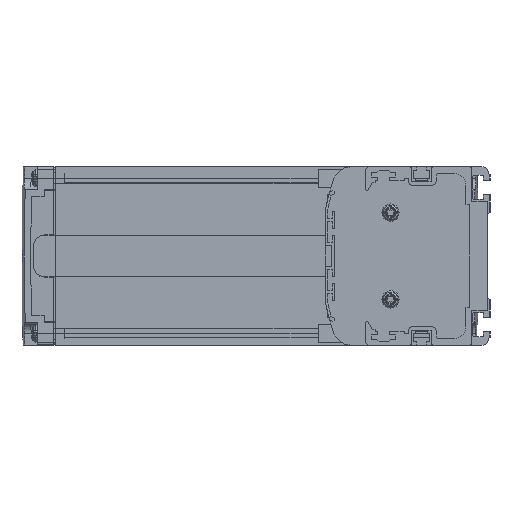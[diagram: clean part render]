
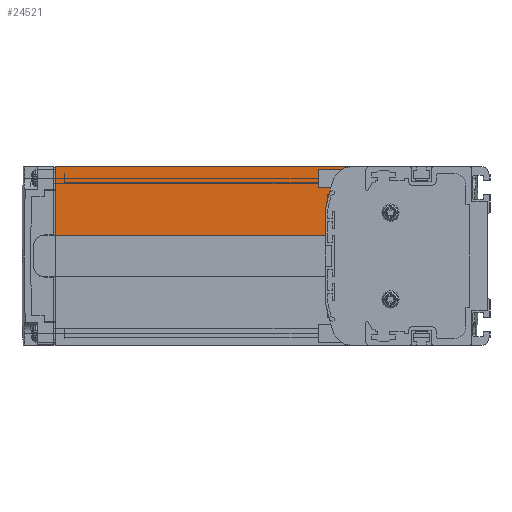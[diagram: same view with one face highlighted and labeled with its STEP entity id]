
A CAD part, left-side view. The second image highlights one B-rep face of the part: STEP entity #24521.
In plain terms, the highlighted planar face has unit normal (-1, 0, 0).
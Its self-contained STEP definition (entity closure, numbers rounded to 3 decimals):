
#1345=DIRECTION('',(0.,-1.,0.));
#1346=VECTOR('',#1345,0.571);
#1347=CARTESIAN_POINT('',(3.,71.,27.));
#1348=LINE('',#1347,#1346);
#1357=DIRECTION('',(0.,0.,1.));
#1358=VECTOR('',#1357,2.224);
#1359=CARTESIAN_POINT('',(3.,71.,24.776));
#1360=LINE('',#1359,#1358);
#1377=DIRECTION('',(0.,0.,-1.));
#1378=VECTOR('',#1377,29.9);
#1379=CARTESIAN_POINT('',(3.,190.,39.));
#1380=LINE('',#1379,#1378);
#5889=DIRECTION('',(0.,-1.,0.));
#5890=VECTOR('',#5889,129.245);
#5891=CARTESIAN_POINT('',(3.,190.,39.));
#5892=LINE('',#5891,#5890);
#7163=DIRECTION('',(0.,0.,-1.));
#7164=VECTOR('',#7163,10.723);
#7165=CARTESIAN_POINT('',(3.,72.,19.823));
#7166=LINE('',#7165,#7164);
#7179=CARTESIAN_POINT('',(3.,70.,19.823));
#7180=DIRECTION('',(1.,0.,0.));
#7181=DIRECTION('',(0.,1.,0.));
#7182=AXIS2_PLACEMENT_3D('',#7179,#7180,#7181);
#7188=CARTESIAN_POINT('',(3.,-6.765,6.));
#7189=DIRECTION('',(1.,0.,0.));
#7190=DIRECTION('',(0.,0.984,0.177));
#7191=AXIS2_PLACEMENT_3D('',#7188,#7189,#7190);
#7193=CARTESIAN_POINT('',(3.,-6.765,6.));
#7194=DIRECTION('',(1.,0.,0.));
#7195=DIRECTION('',(0.,0.965,0.263));
#7196=AXIS2_PLACEMENT_3D('',#7193,#7194,#7195);
#7202=CARTESIAN_POINT('',(3.,60.755,31.));
#7203=DIRECTION('',(-1.,0.,0.));
#7204=DIRECTION('',(0.,0.,1.));
#7205=AXIS2_PLACEMENT_3D('',#7202,#7203,#7204);
#7251=DIRECTION('',(0.,-1.,0.));
#7252=VECTOR('',#7251,118.);
#7253=CARTESIAN_POINT('',(3.,190.,9.1));
#7254=LINE('',#7253,#7252);
#18166=CARTESIAN_POINT('',(3.,190.,39.));
#18167=VERTEX_POINT('',#18166);
#18168=CARTESIAN_POINT('',(3.,190.,9.1));
#18169=VERTEX_POINT('',#18168);
#18198=CARTESIAN_POINT('',(3.,71.,27.));
#18200=VERTEX_POINT('',#18198);
#22340=CARTESIAN_POINT('',(3.,70.429,27.));
#22342=VERTEX_POINT('',#22340);
#22349=CARTESIAN_POINT('',(3.,71.,24.776));
#22351=VERTEX_POINT('',#22349);
#22359=CARTESIAN_POINT('',(3.,72.,9.1));
#22360=VERTEX_POINT('',#22359);
#22369=CARTESIAN_POINT('',(3.,72.,19.823));
#22370=CARTESIAN_POINT('',(3.,71.968,20.177));
#22371=VERTEX_POINT('',#22369);
#22372=VERTEX_POINT('',#22370);
#22373=CARTESIAN_POINT('',(3.,68.257,33.778));
#22374=VERTEX_POINT('',#22373);
#22375=CARTESIAN_POINT('',(3.,60.755,39.));
#22376=VERTEX_POINT('',#22375);
#24497=CARTESIAN_POINT('',(3.,105.,24.05));
#24498=DIRECTION('',(1.,0.,0.));
#24499=DIRECTION('',(0.,0.,1.));
#24500=AXIS2_PLACEMENT_3D('',#24497,#24498,#24499);
#24501=PLANE('',#24500);
#24503=ORIENTED_EDGE('',*,*,#24502,.F.);
#24505=ORIENTED_EDGE('',*,*,#24504,.T.);
#24507=ORIENTED_EDGE('',*,*,#24506,.F.);
#24508=ORIENTED_EDGE('',*,*,#22825,.F.);
#24510=ORIENTED_EDGE('',*,*,#24509,.T.);
#24512=ORIENTED_EDGE('',*,*,#24511,.T.);
#24514=ORIENTED_EDGE('',*,*,#24513,.F.);
#24515=ORIENTED_EDGE('',*,*,#24446,.F.);
#24516=ORIENTED_EDGE('',*,*,#24464,.F.);
#24518=ORIENTED_EDGE('',*,*,#24517,.F.);
#24519=EDGE_LOOP('',(#24503,#24505,#24507,#24508,#24510,#24512,#24514,#24515,
#24516,#24518));
#24520=FACE_OUTER_BOUND('',#24519,.F.);
#24521=ADVANCED_FACE('',(#24520),#24501,.F.);
#7183=CIRCLE('',#7182,2.);
#7192=CIRCLE('',#7191,80.);
#7197=CIRCLE('',#7196,80.);
#7206=CIRCLE('',#7205,8.);
#22825=EDGE_CURVE('',#18167,#18169,#1380,.T.);
#24446=EDGE_CURVE('',#18200,#22342,#1348,.T.);
#24464=EDGE_CURVE('',#22351,#18200,#1360,.T.);
#24502=EDGE_CURVE('',#22371,#22372,#7183,.T.);
#24504=EDGE_CURVE('',#22371,#22360,#7166,.T.);
#24506=EDGE_CURVE('',#18169,#22360,#7254,.T.);
#24509=EDGE_CURVE('',#18167,#22376,#5892,.T.);
#24511=EDGE_CURVE('',#22376,#22374,#7206,.T.);
#24513=EDGE_CURVE('',#22342,#22374,#7197,.T.);
#24517=EDGE_CURVE('',#22372,#22351,#7192,.T.);
